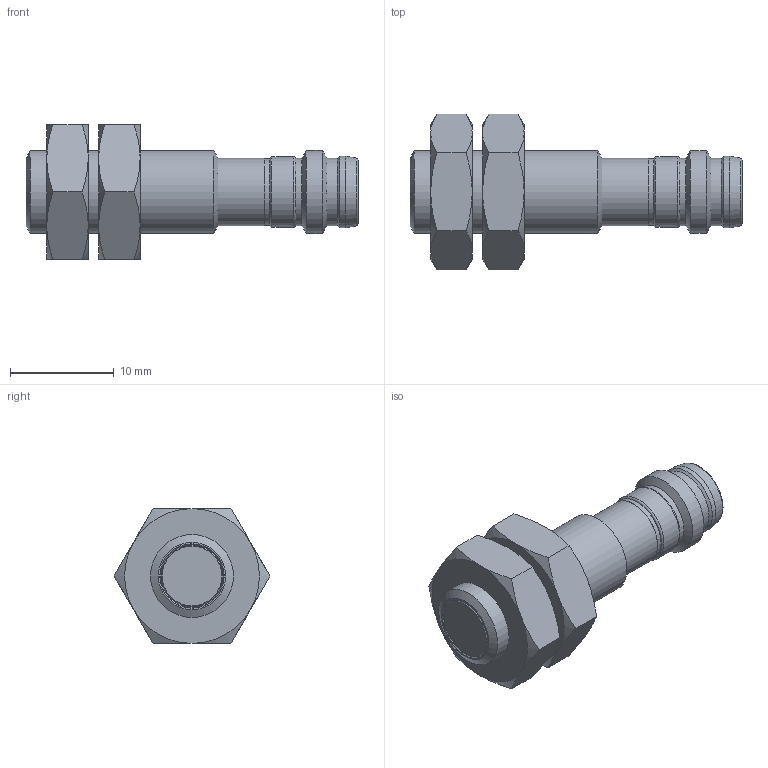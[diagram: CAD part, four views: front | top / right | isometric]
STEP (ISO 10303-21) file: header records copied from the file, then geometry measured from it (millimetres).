
FILE_DESCRIPTION(/* description */ (''),/* implementation_level */ '2;1');
FILE_NAME(/* name */ '3DCAD_ISS208MM_4Nx_2E0_S8_3.stp',/* time_stamp */ '2019-10-18T14:30:15+02:00',/* author */ ('CC2'),/* organization */ ('Leuze electronic'),/* preprocessor_version */ 'ST-DEVELOPER v16',/* originating_system */ 'SIEMENS PLM Software NX 11.0',/* authorisation */ '');
FILE_SCHEMA (('AUTOMOTIVE_DESIGN { 1 0 10303 214 3 1 1 1 }'));
Length unit declared in the file: millimetre
Products named in the file (1): 19-103058_00_1-3DCAD_ISS208MM_4Nx_2E0_S8_3
Bounding box: 32 x 15.01 x 13 mm (x, y, z)
Volume: 2053.3 mm3; surface area: 1514.6 mm2
Topology: 1 solids, 1 shells, 77 faces, 159 edges, 94 vertices
Faces by surface type: cone 32, plane 24, cylinder 14, torus 4, sphere 3
Full cylindrical faces by diameter (mm): 1 x3, 5.8 x1, 6.46 x1, 6.5 x3, 6.8 x1, 6.9 x1, 8 x4
Entity records: 1862 total; most frequent: CARTESIAN_POINT 430, DIRECTION 292, ORIENTED_EDGE 244, AXIS2_PLACEMENT_3D 140, EDGE_CURVE 122, EDGE_LOOP 116, VERTEX_POINT 86, ADVANCED_FACE 77
